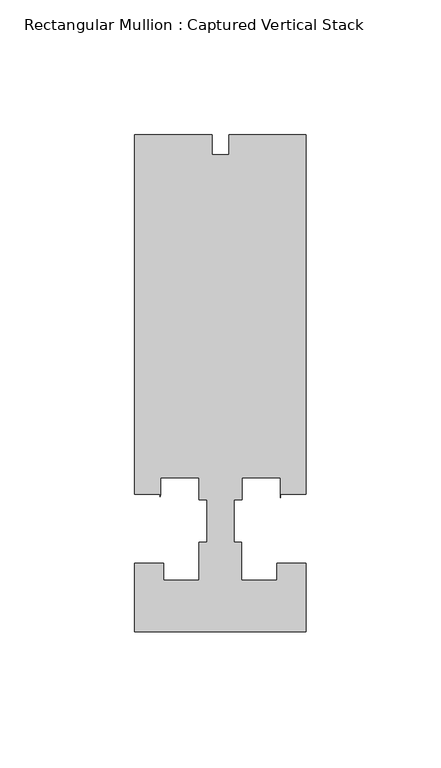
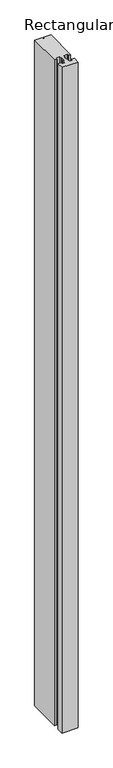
"""IFC4 building model written with IfcOpenShell, lengths in millimetres: member geometry, Rectangular Mullion : Captured Vertical Stack."""

from ifc_helpers import new_model, si_unit, frame, origin, place, context, project, spatial, polyline, outline, extrude, source, transform, mapped, element, save


def rectangular_mullion_captured_vertical_stack_28bbe6cc(model_context):
    return source(origin(), model_context, "Body", "SweptSolid", [
        extrude(outline(polyline([(-3.175, 114.3), (-3.175, 106.9085472), (3.175, 106.9085472), (3.175, 114.3), (31.7705663, 114.3), (31.7705663, -18.933673), (22.3913824, -18.933673), (22.3913824, -20.0839351), (22.2251125, -18.933673), (22.2251125, -12.7), (8.0416658, -12.7), (8.0416658, -20.8793999), (4.988785, -20.8793999), (4.988785, -36.6491027), (7.9374472, -36.6491027), (7.9374472, -50.8001709), (21.0845479, -50.8001709), (21.0845479, -44.4245655), (31.7705663, -44.4245655), (31.7705663, -69.8502416), (-31.7294337, -69.8502416), (-31.7294337, -44.4247364), (-21.0270883, -44.4247364), (-21.0270883, -50.8001709), (-7.9375539, -50.8001709), (-7.9375539, -36.6491027), (-4.9639474, -36.6491027), (-4.9639474, -20.8793999), (-7.9375542, -20.8793999), (-7.9375542, -12.7), (-22.2250091, -12.7), (-22.2250091, -18.948961), (-22.4113151, -19.8905485), (-22.4113151, -18.9488461), (-31.75, -18.9488461), (-31.75, 114.3), (-3.175, 114.3)])), frame((0.0, 0.0, -2743.2), z_axis=(0.0, 0.0, 1.0), x_axis=(1.0, 0.0, 0.0)), (0.0, 0.0, 1.0), 2743.2),
    ])


if __name__ == "__main__":
    model = new_model("IFC4")
    model_context = context("Model", 3, world=origin())
    ifc_project = project(units=[si_unit("LENGTHUNIT", "METRE", prefix="MILLI")], contexts=[model_context])
    site = spatial("IfcSite", under=ifc_project)
    building = spatial("IfcBuilding", under=site)
    placement = place(None, origin())
    rectangular_mullion_captured_vertical_stack_shape = rectangular_mullion_captured_vertical_stack_28bbe6cc(model_context)
    element("IfcMember", 1, ObjectType="Rectangular Mullion : Captured Vertical Stack", at=placement, inside=building, context=model_context, shape_type="MappedRepresentation", body=[
        mapped(rectangular_mullion_captured_vertical_stack_shape, transform((0.0, 0.0, 0.0), x_axis=(1.0, 0.0, 0.0), y_axis=(0.0, 1.0, 0.0), z_axis=(0.0, 0.0, 1.0))),
    ])
    save(model, "model.ifc")
